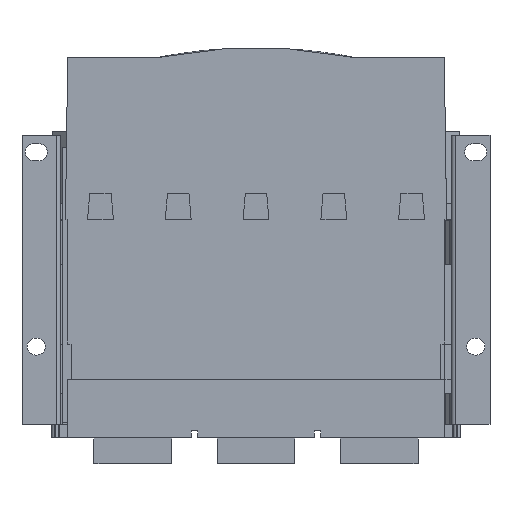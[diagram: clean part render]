
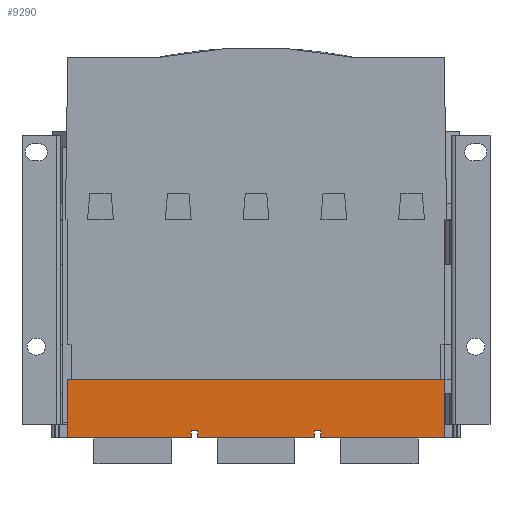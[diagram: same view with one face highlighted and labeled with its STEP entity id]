
A CAD part, front view. The second image highlights one B-rep face of the part: STEP entity #9290.
In plain terms, the highlighted planar face has unit normal (0, -1, 0).
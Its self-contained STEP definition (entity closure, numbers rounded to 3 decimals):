
#94 = CARTESIAN_POINT ( 'NONE',  ( 442.21, 279.726, 274.269 ) ) ;
#247 = VECTOR ( 'NONE', #34136, 1000. ) ;
#1465 = VERTEX_POINT ( 'NONE', #104511 ) ;
#2333 = DIRECTION ( 'NONE',  ( 0., 1., 0. ) ) ;
#2530 = ORIENTED_EDGE ( 'NONE', *, *, #66402, .F. ) ;
#4296 = EDGE_CURVE ( 'NONE', #98448, #101792, #37910, .T. ) ;
#4899 = CARTESIAN_POINT ( 'NONE',  ( 442.21, 279.726, 269.269 ) ) ;
#5534 = CARTESIAN_POINT ( 'NONE',  ( 492.21, 279.726, 269.269 ) ) ;
#6097 = DIRECTION ( 'NONE',  ( -1., 0., 0. ) ) ;
#6280 = CARTESIAN_POINT ( 'NONE',  ( 392.21, 279.726, 291.769 ) ) ;
#6891 = CARTESIAN_POINT ( 'NONE',  ( 587.71, 279.726, 291.769 ) ) ;
#7880 = VECTOR ( 'NONE', #31019, 1000. ) ;
#9290 = ADVANCED_FACE ( 'NONE', ( #115797 ), #75993, .F. ) ;
#9733 = EDGE_CURVE ( 'NONE', #63359, #112548, #79837, .T. ) ;
#10015 = DIRECTION ( 'NONE',  ( -1., 0., 0. ) ) ;
#10469 = VERTEX_POINT ( 'NONE', #21529 ) ;
#10840 = VECTOR ( 'NONE', #6097, 1000. ) ;
#11280 = EDGE_CURVE ( 'NONE', #43084, #71534, #17834, .T. ) ;
#11702 = CARTESIAN_POINT ( 'NONE',  ( 442.21, 279.726, 269.269 ) ) ;
#11942 = ORIENTED_EDGE ( 'NONE', *, *, #22603, .F. ) ;
#11981 = ORIENTED_EDGE ( 'NONE', *, *, #47560, .F. ) ;
#12890 = DIRECTION ( 'NONE',  ( -1., 0., 0. ) ) ;
#13008 = LINE ( 'NONE', #94, #111233 ) ;
#15128 = EDGE_CURVE ( 'NONE', #90224, #24232, #80135, .T. ) ;
#15328 = EDGE_CURVE ( 'NONE', #24232, #43084, #27222, .T. ) ;
#16614 = VECTOR ( 'NONE', #102592, 1000. ) ;
#17054 = ORIENTED_EDGE ( 'NONE', *, *, #9733, .F. ) ;
#17834 = LINE ( 'NONE', #50394, #91794 ) ;
#18040 = DIRECTION ( 'NONE',  ( -1., 0., 0. ) ) ;
#19380 = LINE ( 'NONE', #4899, #10840 ) ;
#21529 = CARTESIAN_POINT ( 'NONE',  ( 392.21, 279.726, 269.269 ) ) ;
#22603 = EDGE_CURVE ( 'NONE', #1465, #10469, #30235, .T. ) ;
#24232 = VERTEX_POINT ( 'NONE', #33017 ) ;
#27222 = LINE ( 'NONE', #11702, #81377 ) ;
#27833 = LINE ( 'NONE', #29875, #7880 ) ;
#28819 = DIRECTION ( 'NONE',  ( 0., 0., -1. ) ) ;
#29875 = CARTESIAN_POINT ( 'NONE',  ( 442.21, 279.726, 274.269 ) ) ;
#30235 = LINE ( 'NONE', #6280, #247 ) ;
#31019 = DIRECTION ( 'NONE',  ( -1., 0., 0. ) ) ;
#31139 = LINE ( 'NONE', #91557, #96669 ) ;
#33017 = CARTESIAN_POINT ( 'NONE',  ( 487.21, 279.726, 269.269 ) ) ;
#34136 = DIRECTION ( 'NONE',  ( 0., 0., -1. ) ) ;
#36025 = VECTOR ( 'NONE', #28819, 1000. ) ;
#37910 = LINE ( 'NONE', #45256, #16614 ) ;
#41541 = EDGE_CURVE ( 'NONE', #10469, #63359, #105116, .T. ) ;
#43084 = VERTEX_POINT ( 'NONE', #64297 ) ;
#45256 = CARTESIAN_POINT ( 'NONE',  ( 492.21, 279.726, 291.769 ) ) ;
#45541 = ORIENTED_EDGE ( 'NONE', *, *, #72319, .T. ) ;
#46984 = VECTOR ( 'NONE', #54296, 1000. ) ;
#47560 = EDGE_CURVE ( 'NONE', #71534, #1465, #13008, .T. ) ;
#49779 = CARTESIAN_POINT ( 'NONE',  ( 296.71, 279.726, 269.269 ) ) ;
#50394 = CARTESIAN_POINT ( 'NONE',  ( 397.21, 279.726, 291.769 ) ) ;
#50602 = CARTESIAN_POINT ( 'NONE',  ( 487.21, 279.726, 274.269 ) ) ;
#54296 = DIRECTION ( 'NONE',  ( 0., 0., 1. ) ) ;
#54751 = VERTEX_POINT ( 'NONE', #79152 ) ;
#57972 = DIRECTION ( 'NONE',  ( 1., 0., 0. ) ) ;
#58365 = AXIS2_PLACEMENT_3D ( 'NONE', #95007, #2333, #57972 ) ;
#60825 = CARTESIAN_POINT ( 'NONE',  ( 296.71, 279.726, 314.269 ) ) ;
#63117 = ORIENTED_EDGE ( 'NONE', *, *, #11280, .F. ) ;
#63359 = VERTEX_POINT ( 'NONE', #49779 ) ;
#64297 = CARTESIAN_POINT ( 'NONE',  ( 397.21, 279.726, 269.269 ) ) ;
#64978 = LINE ( 'NONE', #6891, #80611 ) ;
#65261 = EDGE_LOOP ( 'NONE', ( #63117, #66680, #94162, #80293, #73098, #102164, #2530, #45541, #17054, #98503, #11942, #11981 ) ) ;
#66307 = EDGE_CURVE ( 'NONE', #54751, #98448, #19380, .T. ) ;
#66402 = EDGE_CURVE ( 'NONE', #95397, #54751, #64978, .T. ) ;
#66680 = ORIENTED_EDGE ( 'NONE', *, *, #15328, .F. ) ;
#69029 = CARTESIAN_POINT ( 'NONE',  ( 492.21, 279.726, 274.269 ) ) ;
#71534 = VERTEX_POINT ( 'NONE', #96537 ) ;
#72319 = EDGE_CURVE ( 'NONE', #95397, #112548, #31139, .T. ) ;
#73098 = ORIENTED_EDGE ( 'NONE', *, *, #4296, .F. ) ;
#75993 = PLANE ( 'NONE',  #58365 ) ;
#76731 = VECTOR ( 'NONE', #87043, 1000. ) ;
#79152 = CARTESIAN_POINT ( 'NONE',  ( 587.71, 279.726, 269.269 ) ) ;
#79837 = LINE ( 'NONE', #80278, #46984 ) ;
#80135 = LINE ( 'NONE', #83358, #36025 ) ;
#80278 = CARTESIAN_POINT ( 'NONE',  ( 296.71, 279.726, 291.769 ) ) ;
#80293 = ORIENTED_EDGE ( 'NONE', *, *, #90731, .F. ) ;
#80611 = VECTOR ( 'NONE', #98764, 1000. ) ;
#81377 = VECTOR ( 'NONE', #12890, 1000. ) ;
#83358 = CARTESIAN_POINT ( 'NONE',  ( 487.21, 279.726, 291.769 ) ) ;
#87043 = DIRECTION ( 'NONE',  ( -1., 0., 0. ) ) ;
#90224 = VERTEX_POINT ( 'NONE', #50602 ) ;
#90731 = EDGE_CURVE ( 'NONE', #101792, #90224, #27833, .T. ) ;
#91557 = CARTESIAN_POINT ( 'NONE',  ( 442.21, 279.726, 314.269 ) ) ;
#91794 = VECTOR ( 'NONE', #94979, 1000. ) ;
#94162 = ORIENTED_EDGE ( 'NONE', *, *, #15128, .F. ) ;
#94979 = DIRECTION ( 'NONE',  ( 0., 0., 1. ) ) ;
#95007 = CARTESIAN_POINT ( 'NONE',  ( 442.21, 279.726, 291.769 ) ) ;
#95397 = VERTEX_POINT ( 'NONE', #106933 ) ;
#96537 = CARTESIAN_POINT ( 'NONE',  ( 397.21, 279.726, 274.269 ) ) ;
#96669 = VECTOR ( 'NONE', #10015, 1000. ) ;
#98448 = VERTEX_POINT ( 'NONE', #5534 ) ;
#98503 = ORIENTED_EDGE ( 'NONE', *, *, #41541, .F. ) ;
#98764 = DIRECTION ( 'NONE',  ( 0., 0., -1. ) ) ;
#101792 = VERTEX_POINT ( 'NONE', #69029 ) ;
#102164 = ORIENTED_EDGE ( 'NONE', *, *, #66307, .F. ) ;
#102592 = DIRECTION ( 'NONE',  ( 0., 0., 1. ) ) ;
#104511 = CARTESIAN_POINT ( 'NONE',  ( 392.21, 279.726, 274.269 ) ) ;
#105116 = LINE ( 'NONE', #115531, #76731 ) ;
#106933 = CARTESIAN_POINT ( 'NONE',  ( 587.71, 279.726, 314.269 ) ) ;
#111233 = VECTOR ( 'NONE', #18040, 1000. ) ;
#112548 = VERTEX_POINT ( 'NONE', #60825 ) ;
#115531 = CARTESIAN_POINT ( 'NONE',  ( 442.21, 279.726, 269.269 ) ) ;
#115797 = FACE_OUTER_BOUND ( 'NONE', #65261, .T. ) ;
